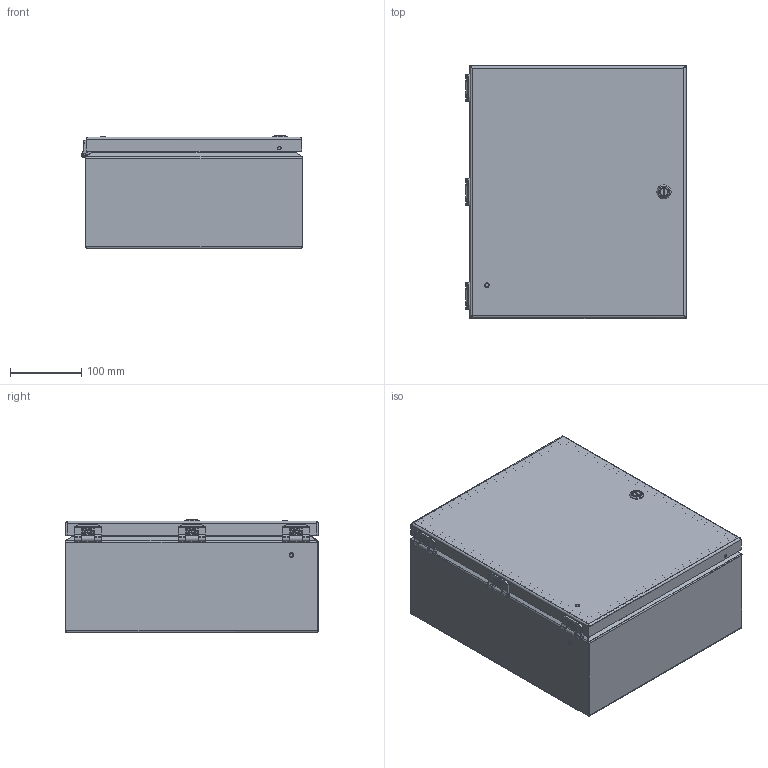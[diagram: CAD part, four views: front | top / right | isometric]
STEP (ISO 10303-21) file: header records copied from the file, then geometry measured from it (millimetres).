
FILE_DESCRIPTION((''),'2;1');
FILE_NAME('MODEL-058_ASM','2025-05-15T15:33:04',('johnh'),('SAGINAW CONTROL & ENGINEERING'),'CREO PARAMETRIC BY PTC INC, 2021284','CREO PARAMETRIC BY PTC INC, 2021284','');
FILE_SCHEMA(('AUTOMOTIVE_DESIGN { 1 0 10303 214 1 1 1 1 }'));
Length unit declared in the file: inch
Products named in the file (25): MODEL-058-BDY; MODEL-058-DR; 112643-BOX-LEAF; 112643-BOX-LEAF-STUD; 112643-BOX_ASM; 112643-DOOR-LEAF; 112643-DOOR-LEAF-STUD; 112643-DOOR_ASM; 112643-PIN; 112643_ASM; 113152; 100063; 112987_SHAFT; 112987_INSERT; 112984; 112987_SCREW; 112987_NUT; 112987_ASM; 100009; MODEL-058-GSKT; 120706; CH-ELJ_SUBPANEL; 102479; CH-ELJ_SUBPANEL-SUBASSEMBLY_ASM; MODEL-058_ASM
Assembly tree (38 placements, depth 4):
  MODEL-058_ASM
    MODEL-058-BDY
    MODEL-058-DR
    112643_ASM  x3
      112643-BOX_ASM
        112643-BOX-LEAF
        112643-BOX-LEAF-STUD
      112643-DOOR_ASM
        112643-DOOR-LEAF
        112643-DOOR-LEAF-STUD
      112643-PIN
    113152  x6
    100063  x2
    112987_ASM
      112987_SHAFT
      112987_INSERT
      112984
      112987_SCREW
      112987_NUT
    100009  x4
    MODEL-058-GSKT
    120706
    CH-ELJ_SUBPANEL-SUBASSEMBLY_ASM
      CH-ELJ_SUBPANEL
      102479  x4
Bounding box: 310.4 x 355.6 x 159.91 mm (x, y, z)
Volume: 920222.6 mm3; surface area: 1129424.2 mm2
Topology: 41 solids, 44 shells, 4013 faces, 10313 edges, 6358 vertices
Faces by surface type: plane 1330, bspline 1170, cylinder 1158, cone 177, torus 158, sphere 20
Entity records: 101902 total; most frequent: CARTESIAN_POINT 54537, ORIENTED_EDGE 7062, DIRECTION 6042, PRESENTATION_STYLE_ASSIGNMENT 3700, STYLED_ITEM 3700, EDGE_CURVE 3531, CURVE_STYLE 3441, AXIS2_PLACEMENT_3D 2235
